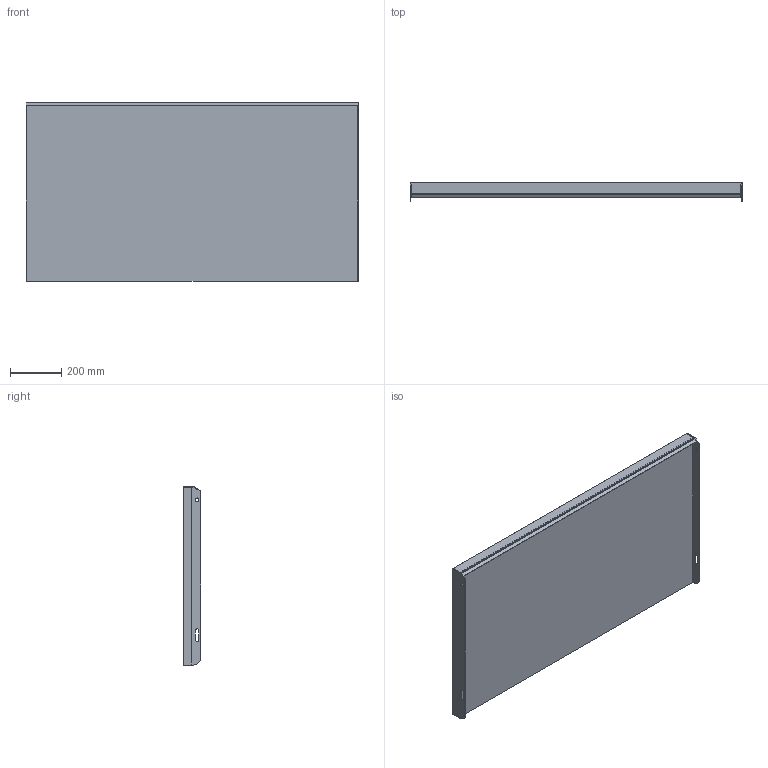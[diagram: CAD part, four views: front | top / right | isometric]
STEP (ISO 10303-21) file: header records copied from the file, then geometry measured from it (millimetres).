
FILE_DESCRIPTION (( 'STEP AP203' ), '1' );
FILE_NAME ('148813071, Plan TH6, 1300x700, vfz.STEP', '2020-10-21T13:18:58', ( '' ), ( '' ), 'SwSTEP 2.0', 'SolidWorks 2019', '' );
FILE_SCHEMA (( 'CONFIG_CONTROL_DESIGN' ));
Length unit declared in the file: millimetre
Products named in the file (4): SW0000041754; SW0000041386; SW0000041803; 148813071, Plan TH6, 1300x700, vfz
Assembly tree (4 placements, depth 2):
  148813071, Plan TH6, 1300x700, vfz
    SW0000041803
    SW0000041386  x2
    SW0000041754
Bounding box: 1300 x 70 x 697 mm (x, y, z)
Volume: 31949917.3 mm3; surface area: 2299256.8 mm2
Topology: 4 solids, 4 shells, 59 faces, 142 edges, 92 vertices
Faces by surface type: plane 45, cylinder 14
Entity records: 1693 total; most frequent: DIRECTION 221, CARTESIAN_POINT 220, ORIENTED_EDGE 206, EDGE_CURVE 103, VECTOR 87, LINE 87, AXIS2_PLACEMENT_3D 67, VERTEX_POINT 66
